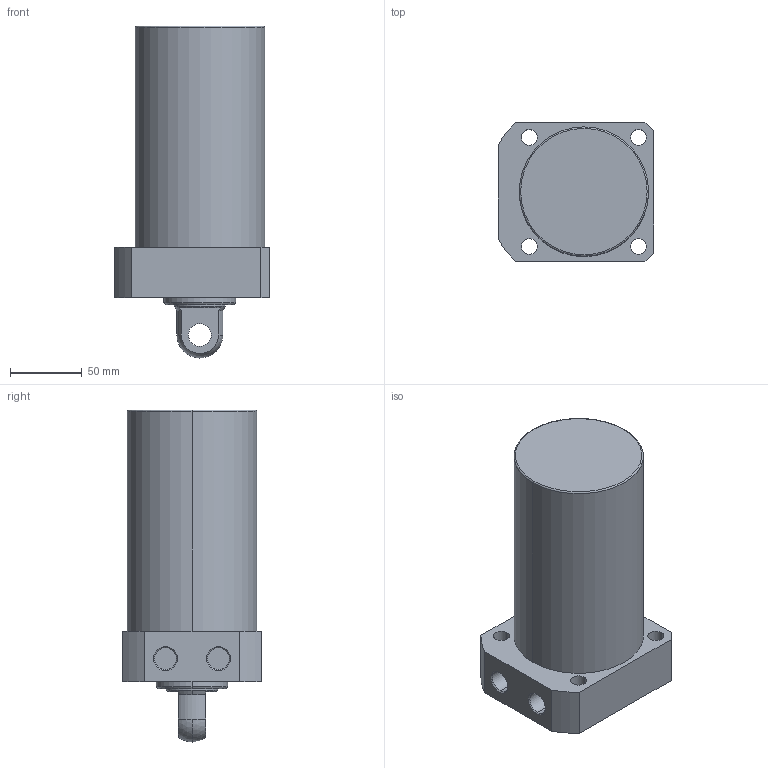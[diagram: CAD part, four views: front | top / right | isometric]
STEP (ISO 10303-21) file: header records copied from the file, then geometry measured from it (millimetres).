
FILE_DESCRIPTION (( 'STEP AP203' ), '1' );
FILE_NAME ('CLLR-090CP-110.STEP', '2019-12-18T06:55:33', ( '' ), ( '' ), 'SwSTEP 2.0', 'SolidWorks 2015', '' );
FILE_SCHEMA (( 'CONFIG_CONTROL_DESIGN' ));
Length unit declared in the file: millimetre
Products named in the file (1): CLLR-090CP-110
Bounding box: 108 x 97 x 231 mm (x, y, z)
Volume: 1343876 mm3; surface area: 87608.2 mm2
Topology: 1 solids, 1 shells, 59 faces, 139 edges, 89 vertices
Faces by surface type: cylinder 29, plane 18, cone 8, sphere 2, torus 2
Entity records: 1822 total; most frequent: DIRECTION 331, CARTESIAN_POINT 300, ORIENTED_EDGE 278, EDGE_CURVE 139, AXIS2_PLACEMENT_3D 136, VERTEX_POINT 89, CIRCLE 76, EDGE_LOOP 76
